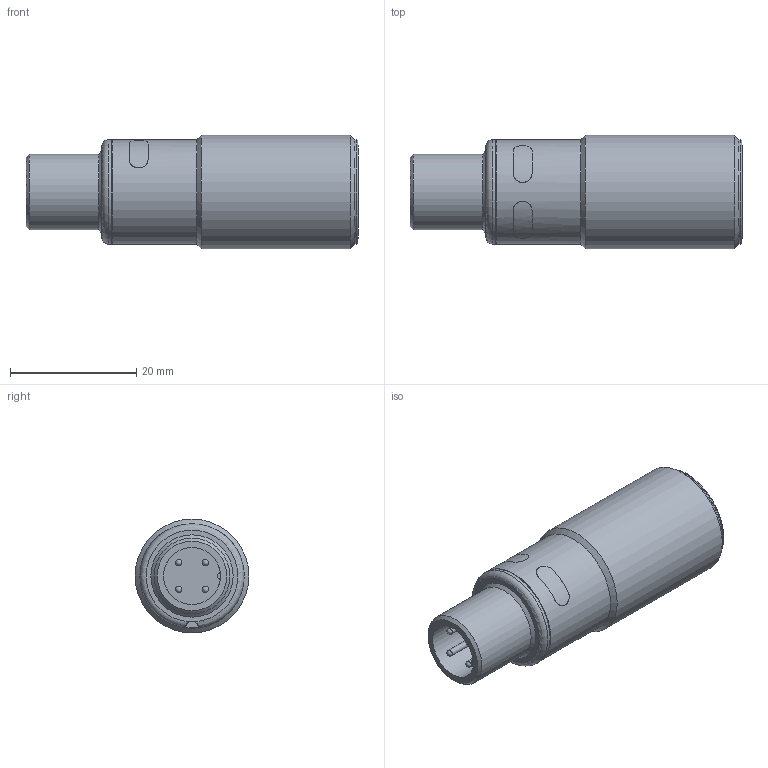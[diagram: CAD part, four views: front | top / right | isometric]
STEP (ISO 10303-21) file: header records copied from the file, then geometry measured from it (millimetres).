
FILE_DESCRIPTION((''),'2;1');
FILE_NAME('J:\Projekte\Kunststoff-Blechteile\Zeichnungen\Bibliothek Inventor\3D Solids\nero\STP\pico+100\nero-100_X.stp','2012-02-27T13:34:21',('Oliver Liedtke'),(''),'Autodesk Inventor 2009','Autodesk Inventor 2009','');
FILE_SCHEMA(('AUTOMOTIVE_DESIGN { 1 0 10303 214 1 1 1 1 }'));
Length unit declared in the file: millimetre
Products named in the file (1): nero-100_X
Bounding box: 52.5 x 18 x 18 mm (x, y, z)
Volume: 10503.6 mm3; surface area: 3403.6 mm2
Topology: 1 solids, 1 shells, 45 faces, 98 edges, 59 vertices
Faces by surface type: cylinder 17, plane 14, bspline 4, sphere 4, cone 4, torus 2
Full cylindrical faces by diameter (mm): 1 x4, 9 x1, 10.5 x1, 12 x1, 14.8 x1, 16.3 x1, 16.5 x3, 18 x1
Entity records: 3244 total; most frequent: CARTESIAN_POINT 2286, DIRECTION 182, ORIENTED_EDGE 136, AXIS2_PLACEMENT_3D 86, EDGE_LOOP 76, EDGE_CURVE 68, VERTEX_POINT 56, FACE_OUTER_BOUND 45
